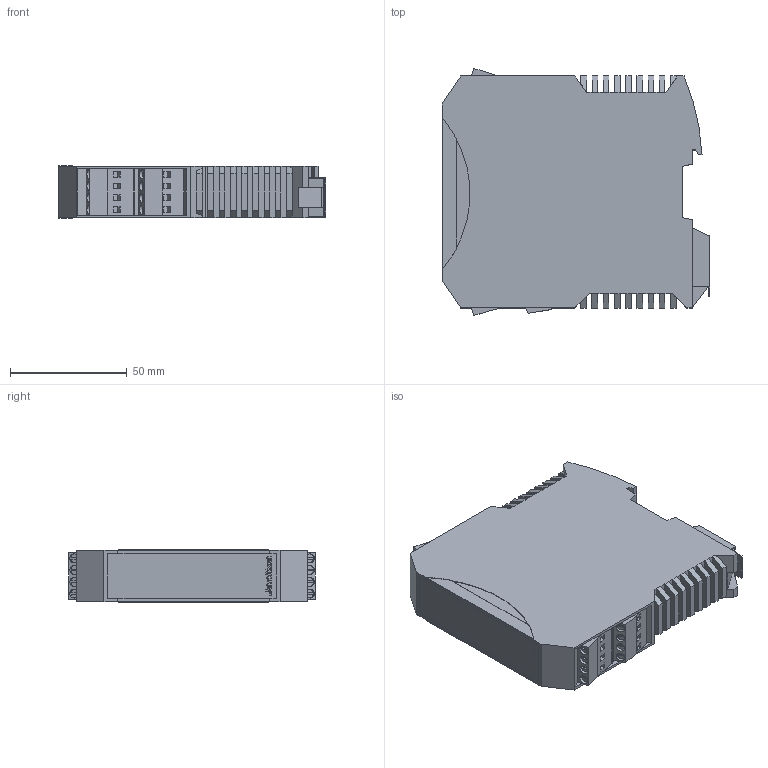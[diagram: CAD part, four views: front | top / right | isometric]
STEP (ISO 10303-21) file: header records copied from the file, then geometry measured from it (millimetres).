
FILE_DESCRIPTION(/* description */ ('STEP AP214'),/* implementation_level */ '2;1');
FILE_NAME(/* name */ 'C:\Users\matth\Desktop\Janitza Post\1503613-RogoTrans\Daten\15.03.613-Rogo Trans.stp',/* time_stamp */ '2020-11-24T16:17:01+01:00',/* author */ ('mh'),/* organization */ (''),/* preprocessor_version */ 'ST-DEVELOPER v18',/* originating_system */ 'Autodesk Inventor 2020',/* authorisation */ '');
FILE_SCHEMA (('AUTOMOTIVE_DESIGN { 1 0 10303 214 3 1 1 }'));
Length unit declared in the file: millimetre
Products named in the file (4): 15.03.613-Rogo Trans; 1503613-Rogo Transa; TM-0508 A-4 Rechtwinklig; 16-LOGO
Assembly tree (3 placements, depth 2):
  15.03.613-Rogo Trans
    1503613-Rogo Transa
    TM-0508 A-4 Rechtwinklig
    16-LOGO
Bounding box: 114.9 x 105.95 x 22.6 mm (x, y, z)
Volume: 225251.4 mm3; surface area: 50250.5 mm2
Topology: 17 solids, 18 shells, 700 faces, 1739 edges, 1115 vertices
Faces by surface type: plane 599, bspline 51, cylinder 44, cone 6
Full cylindrical faces by diameter (mm): 0.8 x4, 1.9 x7, 3.2 x1, 3.8 x12, 10.3 x1
Entity records: 21179 total; most frequent: CARTESIAN_POINT 4236, ORIENTED_EDGE 3478, DIRECTION 3144, EDGE_CURVE 1739, LINE 1434, VECTOR 1434, VERTEX_POINT 1115, AXIS2_PLACEMENT_3D 855
